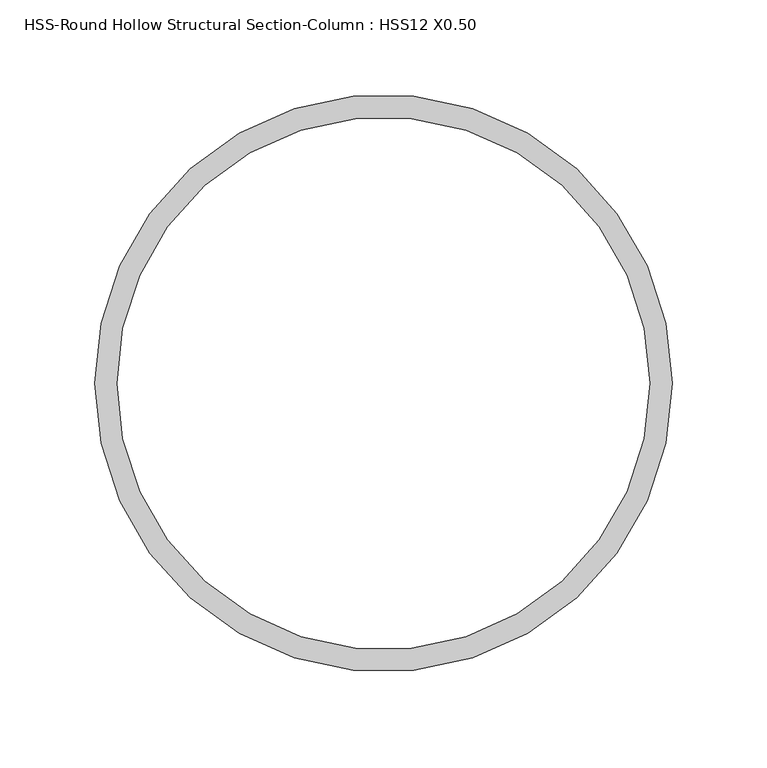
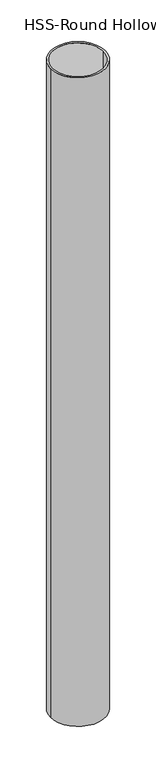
"""IFC4 building model written with IfcOpenShell, lengths in millimetres: column geometry, HSS-Round Hollow Structural Section-Column : HSS12 X0.50."""

from ifc_helpers import new_model, si_unit, point, frame, origin, origin_2d, place, context, project, spatial, circle_curve, trimmed, segment, composite_curve, outline, extrude, source, transform, mapped, element, save


def hss_round_hollow_structural_section_column_hss12_x0_50_422785a7(model_context):
    return source(origin(), model_context, "Body", "SweptSolid", [
        extrude(outline(composite_curve([segment(trimmed(circle_curve(origin_2d(), 152.4), [point((-152.4, 0.0))], [point((152.4, 0.0))], False, "CARTESIAN"), True, "CONTINUOUS"), segment(trimmed(circle_curve(origin_2d(), 152.4), [point((152.4, 0.0))], [point((-152.4, 0.0))], False, "CARTESIAN"), True, "CONTINUOUS")], self_intersect=False), holes=[composite_curve([segment(trimmed(circle_curve(origin_2d(), 140.589), [point((-140.589, 0.0))], [point((140.589, 0.0))], True, "CARTESIAN"), True, "CONTINUOUS"), segment(trimmed(circle_curve(origin_2d(), 140.589), [point((140.589, 0.0))], [point((-140.589, 0.0))], True, "CARTESIAN"), True, "CONTINUOUS")], self_intersect=False)]), frame((0.0, 0.0, 290080.7), z_axis=(0.0, 0.0, 1.0), x_axis=(1.0, 0.0, 0.0)), (0.0, 0.0, 1.0), 3810.0),
    ])


if __name__ == "__main__":
    model = new_model("IFC4")
    model_context = context("Model", 3, world=origin())
    ifc_project = project(units=[si_unit("LENGTHUNIT", "METRE", prefix="MILLI")], contexts=[model_context])
    site = spatial("IfcSite", under=ifc_project)
    building = spatial("IfcBuilding", under=site)
    placement = place(None, origin())
    hss_round_hollow_structural_section_column_hss12_x0_50_shape = hss_round_hollow_structural_section_column_hss12_x0_50_422785a7(model_context)
    element("IfcColumn", 1, ObjectType="HSS-Round Hollow Structural Section-Column : HSS12 X0.50", at=placement, inside=building, context=model_context, shape_type="MappedRepresentation", body=[
        mapped(hss_round_hollow_structural_section_column_hss12_x0_50_shape, transform((0.0, 0.0, 0.0), x_axis=(1.0, 0.0, 0.0), y_axis=(0.0, 1.0, 0.0), z_axis=(0.0, 0.0, 1.0))),
    ])
    save(model, "model.ifc")
